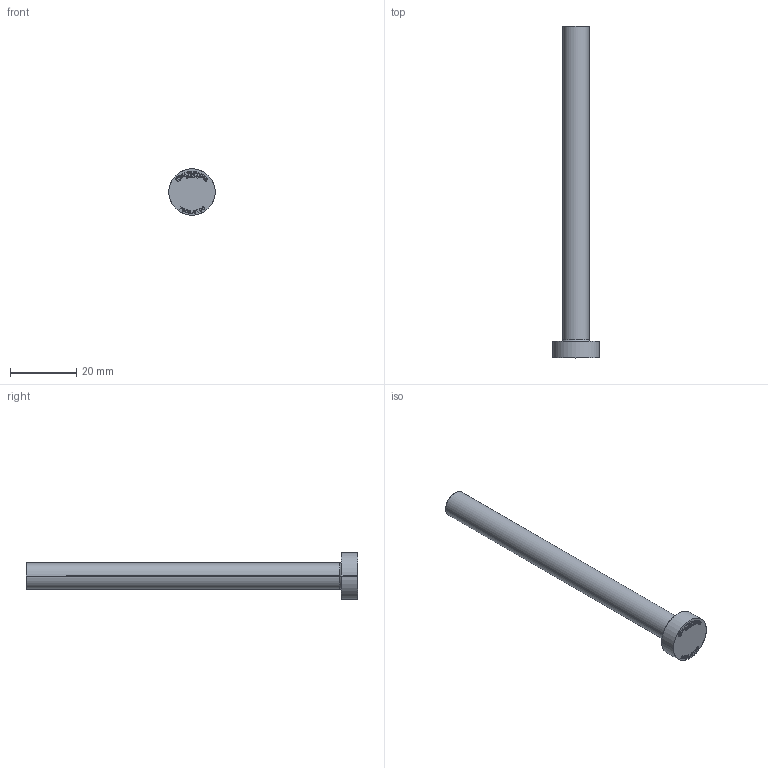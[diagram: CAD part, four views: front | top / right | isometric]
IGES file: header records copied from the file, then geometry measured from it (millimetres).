
Start section: SolidWorks IGES file using analytic representation for surfaces
Global section: file name: C:\Users\User\Downloads\Matripeça 31-08 tar\PB - PINO EXTRATOR TIPO _B_ (CATÁLOGO)\PB08,0\PB08,0100.IGS; native system: SolidWorks 2024; preprocessor: SolidWorks 2024; author: User; date: 260901.145144; units: millimetre
Bounding box: 14 x 100 x 14 mm (x, y, z)
Surface area: 2921.3 mm2 (no closed solid volume)
Topology: 0 solids, 0 shells, 401 faces, 3981 edges, 3981 vertices
Faces by surface type: bspline 387, revolution 14
